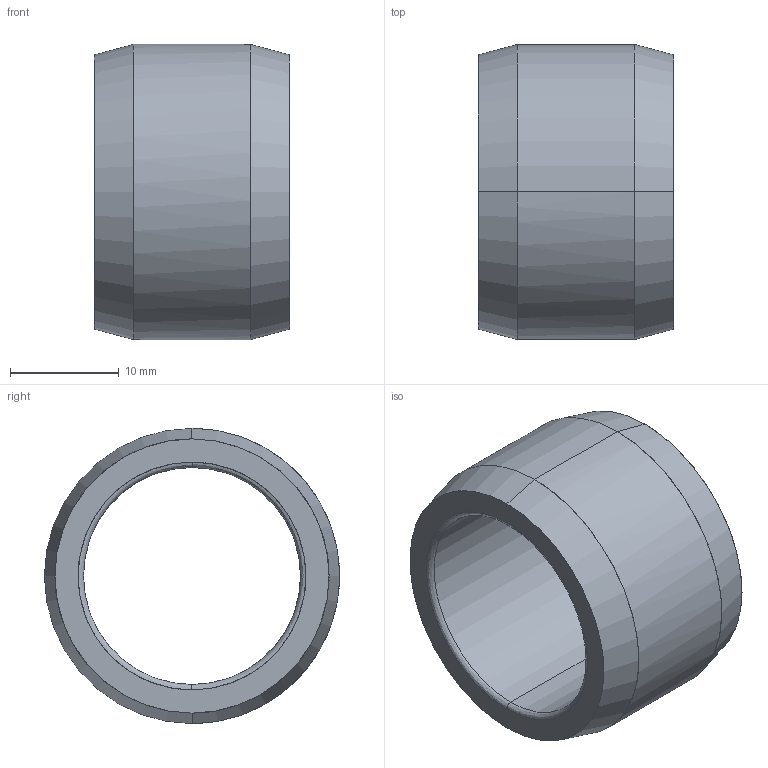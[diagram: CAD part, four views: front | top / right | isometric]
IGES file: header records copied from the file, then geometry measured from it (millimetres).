
Start section: START RECORD GO HERE.
Global section: file name: _NPart#1020.igs; native system: IBM CATIA IGES - CATIA Version 5 Release 18 ; preprocessor: CATIA Version 5 Release 18 ; author: Propriétaire; organization: FUJITSU-79916BB; date: 20090111.154952; units: millimetre
Bounding box: 18 x 27.2 x 27.2 mm (x, y, z)
Surface area: 3016.3 mm2 (no closed solid volume)
Topology: 0 solids, 0 shells, 14 faces, 56 edges, 56 vertices
Faces by surface type: revolution 12, plane 2
